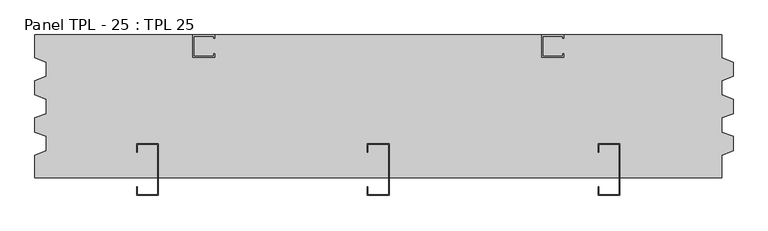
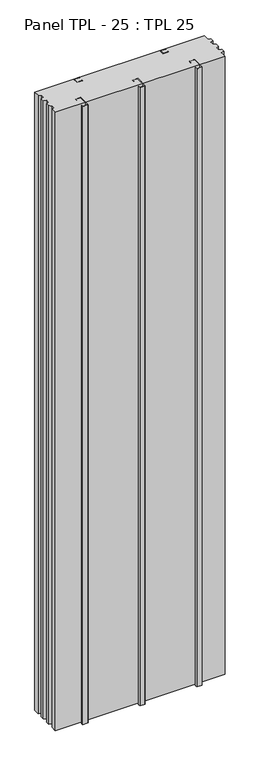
"""IFC4 building model written with IfcOpenShell, lengths in millimetres: plate geometry, Panel TPL - 25 : TPL 25."""

from ifc_helpers import new_model, si_unit, origin, origin_with_axes, place, context, project, spatial, polyline, outline, extrude, source, transform, mapped, element, save


def panel_tpl_25_tpl_25_eb621012(model_context):
    return source(origin(), model_context, "Body", "SweptSolid", [
        extrude(outline(polyline([(-324.5000002, 125.0), (-285.5000002, 125.0), (-285.5000002, 119.0), (-287.5000002, 119.0), (-287.5000002, 123.0), (-322.5000002, 123.0), (-322.5000002, 88.0), (-287.5000002, 88.0), (-287.5000002, 92.0), (-285.5000002, 92.0), (-285.5000002, 86.0), (-324.5000002, 86.0), (-324.5000002, 125.0)])), origin_with_axes(), (0.0, 0.0, 1.0), 4618.8021535),
        extrude(outline(polyline([(-19.0, -65.0), (19.0, -65.0), (19.0, -155.0), (-19.0, -155.0), (-19.0, -140.0), (-18.15, -140.0), (-18.15, -154.15), (18.15, -154.15), (18.15, -65.85), (-18.15, -65.85), (-18.15, -80.0), (-19.0, -80.0), (-19.0, -65.0)])), origin_with_axes(), (0.0, 0.0, 1.0), 4618.8021535),
        extrude(outline(polyline([(285.5000002, 125.0), (324.5000002, 125.0), (324.5000002, 119.0), (322.5000002, 119.0), (322.5000002, 123.0), (287.5000002, 123.0), (287.5000002, 88.0), (322.5000002, 88.0), (322.5000002, 92.0), (324.5000002, 92.0), (324.5000002, 86.0), (285.5000002, 86.0), (285.5000002, 125.0)])), origin_with_axes(), (0.0, 0.0, 1.0), 4618.8021535),
        extrude(outline(polyline([(-422.3000002, -65.0), (-384.3000002, -65.0), (-384.3000002, -155.0), (-422.3000002, -155.0), (-422.3000002, -140.0), (-421.4500002, -140.0), (-421.4500002, -154.15), (-385.1500002, -154.15), (-385.1500002, -65.85), (-421.4500002, -65.85), (-421.4500002, -80.0), (-422.3000002, -80.0), (-422.3000002, -65.0)])), origin_with_axes(), (0.0, 0.0, 1.0), 4618.8021535),
        extrude(outline(polyline([(384.3000002, -65.0), (422.3000002, -65.0), (422.3000002, -155.0), (384.3000002, -155.0), (384.3000002, -140.0), (385.1500002, -140.0), (385.1500002, -154.15), (421.4500002, -154.15), (421.4500002, -65.85), (385.1500002, -65.85), (385.1500002, -80.0), (384.3000002, -80.0), (384.3000002, -65.0)])), origin_with_axes(), (0.0, 0.0, 1.0), 4618.8021535),
        extrude(outline(polyline([(-600.0000002, 20.0010038), (-600.0000002, 45.0010038), (-580.0000002, 52.5020076), (-580.0000002, 77.5020076), (-600.0000002, 85.0030113), (-600.0000002, 125.0), (600.0000002, 125.0), (600.0000002, 85.0030113), (620.0000002, 77.5020076), (620.0000002, 52.5020076), (600.0000002, 45.0010038), (600.0000002, 20.0010038), (620.0000002, 12.5), (620.0000002, -12.5), (600.0000002, -20.0010038), (600.0000002, -45.0010038), (620.0000002, -52.5020076), (620.0000002, -77.5020076), (600.0000002, -85.0030113), (600.0000002, -125.0), (-600.0000002, -125.0), (-600.0000002, -85.0030113), (-580.0000002, -77.5020076), (-580.0000002, -52.5020076), (-600.0000002, -45.0010038), (-600.0000002, -20.0010038), (-580.0000002, -12.5), (-580.0000002, 12.5), (-600.0000002, 20.0010038)])), origin_with_axes(), (0.0, 0.0, 1.0), 4618.8021535),
    ])


if __name__ == "__main__":
    model = new_model("IFC4")
    model_context = context("Model", 3, world=origin())
    ifc_project = project(units=[si_unit("LENGTHUNIT", "METRE", prefix="MILLI")], contexts=[model_context])
    site = spatial("IfcSite", under=ifc_project)
    building = spatial("IfcBuilding", under=site)
    placement = place(None, origin())
    panel_tpl_25_tpl_25_shape = panel_tpl_25_tpl_25_eb621012(model_context)
    element("IfcPlate", 1, ObjectType="Panel TPL - 25 : TPL 25", at=placement, inside=building, context=model_context, shape_type="MappedRepresentation", body=[
        mapped(panel_tpl_25_tpl_25_shape, transform((0.0, 0.0, 0.0), x_axis=(1.0, 0.0, 0.0), y_axis=(0.0, 1.0, 0.0), z_axis=(0.0, 0.0, 1.0))),
    ])
    save(model, "model.ifc")
